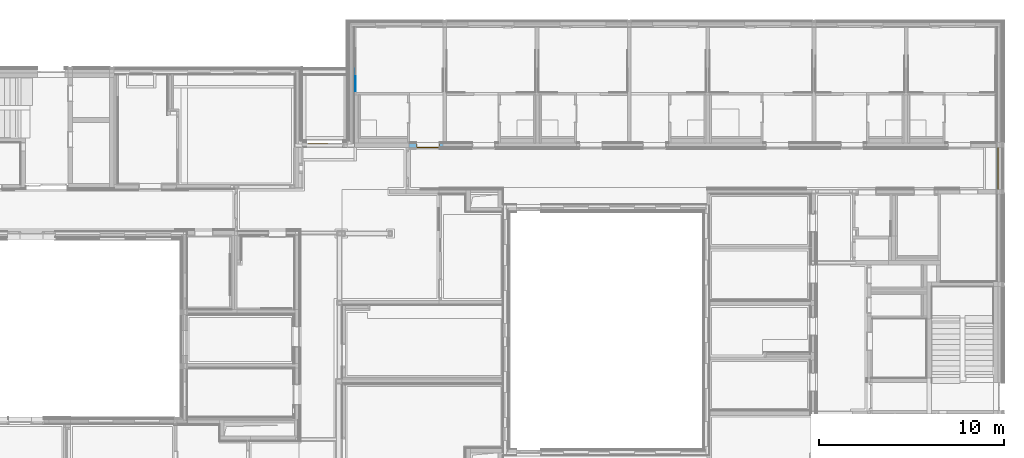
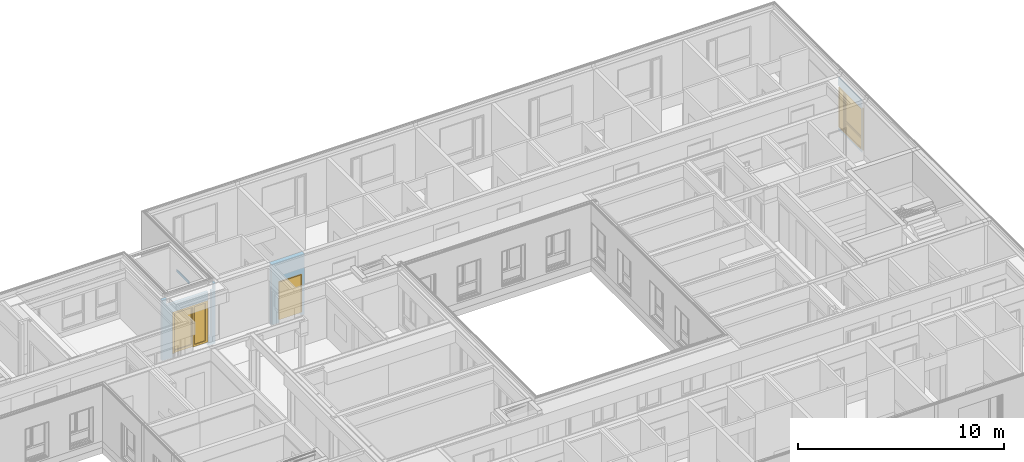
# One storey, part 145 of 207: 2 doors, 1 wall, 1 window, 3 openings, plus 3 elements that do not belong to this part.
"""IFC4 building model written with IfcOpenShell, lengths in metres."""

import ifcopenshell
import ifcopenshell.guid

model = None  # the IFC model being written
_history = None  # IfcOwnerHistory: only IFC2X3 demands one
_inside = {}  # id of a spatial element -> (the spatial element, [elements in it])
_under = {}  # id of a project, library or spatial element -> (it, [spatial elements below it])
_declared = {}  # id of a project -> (the project, [libraries it declares])
_typed = {}  # id of a type object -> (the type object, [elements of that type])
_made_of = {}  # id of a material, layer set ... -> (it, [elements and type objects made of it])


def new_model(schema):
    """Start an empty IFC model of exactly this schema.

    Asked for "IFC4X3", IfcOpenShell would pick the latest addendum, in which some entities
    have other attributes; the version numbers below select the first issue.
    IFC2X3 requires an IfcOwnerHistory on every rooted entity: one is made here for all.
    """
    global model, _history
    if schema == "IFC4X3":
        model = ifcopenshell.file(schema_version=(4, 3, 0, 0))
    else:
        model = ifcopenshell.file(schema=schema)
    _inside.clear()
    _under.clear()
    _declared.clear()
    _typed.clear()
    _made_of.clear()
    _history = None
    if model.schema == "IFC2X3":
        org = make("IfcOrganization", Name="unknown")
        user = make(
            "IfcPersonAndOrganization",
            ThePerson=make("IfcPerson", FamilyName="unknown"),
            TheOrganization=org,
        )
        app = make(
            "IfcApplication",
            ApplicationDeveloper=org,
            Version="unknown",
            ApplicationFullName="unknown",
            ApplicationIdentifier="unknown",
        )
        _history = make(
            "IfcOwnerHistory",
            OwningUser=user,
            OwningApplication=app,
            ChangeAction="ADDED",
            CreationDate=0,
        )
    return model


def make(cls, **values):
    """One entity of the class cls with the attributes given. An attribute that is None is left unset."""
    return model.create_entity(
        cls, **{name: value for name, value in values.items() if value is not None}
    )


def entity(cls, *values):
    """Any entity or typed value of the class cls, its attributes in the order of the schema. None: left unset."""
    e = model.create_entity(cls)
    for i, value in enumerate(values):
        if value is not None:
            e[i] = value
    return e


def rooted(cls, **values):
    """An entity with a GlobalId (a new one), such as an element, a storey or a relation."""
    return make(cls, GlobalId=ifcopenshell.guid.new(), OwnerHistory=_history, **values)


def si_unit(unit_type, name, prefix=None):
    """IfcSIUnit, for example si_unit("LENGTHUNIT", "METRE", prefix="MILLI")."""
    return make("IfcSIUnit", UnitType=unit_type, Prefix=prefix, Name=name)


def converted_unit(unit_type, name, factor, base, dimensions=None, offset=None):
    """IfcConversionBasedUnit, such as the inch: factor (a typed value) times the base unit."""
    return make(
        "IfcConversionBasedUnit"
        if offset is None
        else "IfcConversionBasedUnitWithOffset",
        ConversionOffset=offset,
        Dimensions=None
        if dimensions is None
        else entity("IfcDimensionalExponents", *dimensions),
        UnitType=unit_type,
        Name=name,
        ConversionFactor=make(
            "IfcMeasureWithUnit", ValueComponent=factor, UnitComponent=base
        ),
    )


def derived_unit(unit_type, elements):
    """IfcDerivedUnit: a product of units, each with its exponent."""
    return make(
        "IfcDerivedUnit",
        Elements=[
            make("IfcDerivedUnitElement", Unit=unit, Exponent=power)
            for unit, power in elements
        ],
        UnitType=unit_type,
    )


def assignment(units):
    """IfcUnitAssignment: the units of a project."""
    return None if units is None else make("IfcUnitAssignment", Units=units)


def point(xyz):
    """IfcCartesianPoint."""
    return None if xyz is None else make("IfcCartesianPoint", Coordinates=xyz)


def direction(xyz):
    """IfcDirection."""
    return None if xyz is None else make("IfcDirection", DirectionRatios=xyz)


def frame(location, z_axis=None, x_axis=None):
    """IfcAxis2Placement3D, a coordinate frame: its origin and axes. An axis left out is left unset."""
    return make(
        "IfcAxis2Placement3D",
        Location=point(location),
        Axis=direction(z_axis),
        RefDirection=direction(x_axis),
    )


def frame_2d(location, x_axis=None):
    """IfcAxis2Placement2D, a coordinate frame in the plane: its origin and x axis."""
    return make(
        "IfcAxis2Placement2D", Location=point(location), RefDirection=direction(x_axis)
    )


def origin():
    """The frame at (0, 0, 0) with its axes left unset."""
    return frame((0.0, 0.0, 0.0))


def origin_with_axes():
    """The frame at (0, 0, 0) with the z axis (0, 0, 1) and the x axis (1, 0, 0) written out."""
    return frame((0.0, 0.0, 0.0), z_axis=(0.0, 0.0, 1.0), x_axis=(1.0, 0.0, 0.0))


def place(relative_to, where):
    """IfcLocalPlacement: puts the frame where relative to a parent placement (None: the world)."""
    return make(
        "IfcLocalPlacement", PlacementRelTo=relative_to, RelativePlacement=where
    )


def context(
    kind, dimensions, precision=None, world=None, true_north=None, identifier=None
):
    """IfcGeometricRepresentationContext, for example the 3D "Model" context."""
    return make(
        "IfcGeometricRepresentationContext",
        ContextIdentifier=identifier,
        ContextType=kind,
        CoordinateSpaceDimension=dimensions,
        Precision=precision,
        WorldCoordinateSystem=world,
        TrueNorth=true_north,
    )


def subcontext(parent, identifier, kind, view, scale=None):
    """IfcGeometricRepresentationSubContext, for example "Body" below "Model"."""
    return make(
        "IfcGeometricRepresentationSubContext",
        ContextIdentifier=identifier,
        ContextType=kind,
        ParentContext=parent,
        TargetScale=scale,
        TargetView=view,
    )


def project(units=None, contexts=None):
    """IfcProject with its units and contexts."""
    return rooted(
        "IfcProject",
        Name="project",
        RepresentationContexts=contexts,
        UnitsInContext=assignment(units),
    )


def spatial(cls, under=None, at=None, **own):
    """A site, building, storey or space (cls), placed at a placement, below another one or the project."""
    s = rooted(cls, ObjectPlacement=at, **own)
    if under is not None:
        _under.setdefault(under.id(), (under, []))[1].append(s)
    return s


def polyline(points):
    """IfcPolyline through the points."""
    return make("IfcPolyline", Points=[point(p) for p in points])


def profile(cls, at=None, kind="AREA", **sizes):
    """A parametric profile (cls). Its sizes go by their IFC names, for example OverallWidth=200.0."""
    return make(cls, ProfileType=kind, Position=at, **sizes)


def rectangle(**sizes):
    """IfcRectangleProfileDef."""
    return profile("IfcRectangleProfileDef", **sizes)


def outline(outer, holes=None, kind="AREA"):
    """IfcArbitraryClosedProfileDef: a profile drawn as a closed curve; with holes, ...WithVoids."""
    if holes is None:
        return make("IfcArbitraryClosedProfileDef", ProfileType=kind, OuterCurve=outer)
    return make(
        "IfcArbitraryProfileDefWithVoids",
        ProfileType=kind,
        OuterCurve=outer,
        InnerCurves=holes,
    )


def extrude(swept, where, along, depth):
    """IfcExtrudedAreaSolid: the profile swept, set in the frame where, extruded along a direction by depth."""
    return make(
        "IfcExtrudedAreaSolid",
        SweptArea=swept,
        Position=where,
        ExtrudedDirection=direction(along),
        Depth=depth,
    )


def clip(a, b, op="DIFFERENCE"):
    """IfcBooleanClippingResult: the solid a cut by the half space b."""
    return make(
        "IfcBooleanClippingResult", Operator=op, FirstOperand=a, SecondOperand=b
    )


def bounded_halfspace(plane, agree, where, boundary):
    """IfcPolygonalBoundedHalfSpace: a half space limited to a polygon's prism."""
    return make(
        "IfcPolygonalBoundedHalfSpace",
        BaseSurface=make("IfcPlane", Position=plane),
        AgreementFlag=agree,
        Position=where,
        PolygonalBoundary=boundary,
    )


def faces_of(points, faces, orient=None, outer=None):
    """IfcFace entities. A face is a list of loops; a loop is a list of indices into points, from 0.

    orient and outer hold one flag for each loop. By default every Orientation is true, the
    first loop of a face is its IfcFaceOuterBound and the others are IfcFaceBound.
    """
    made = []
    for i, loops in enumerate(faces):
        bounds = []
        for j, loop in enumerate(loops):
            is_outer = j == 0 if outer is None else outer[i][j]
            bounds.append(
                make(
                    "IfcFaceOuterBound" if is_outer else "IfcFaceBound",
                    Bound=make("IfcPolyLoop", Polygon=[points[k] for k in loop]),
                    Orientation=True if orient is None else orient[i][j],
                )
            )
        made.append(make("IfcFace", Bounds=bounds))
    return made


def closed_shell(faces, orient=None, outer=None):
    """The faces of one IfcClosedShell. faceted_brep and surface_model build it on their shared points."""
    return ("IfcClosedShell", faces, orient, outer)


def open_shell(faces, orient=None, outer=None):
    """The faces of one IfcOpenShell. surface_model builds it on its shared points."""
    return ("IfcOpenShell", faces, orient, outer)


def faceted_brep(points, faces, orient=None, outer=None, voids=None):
    """IfcFacetedBrep: a solid bounded by flat faces; with voids (closed shells), ...WithVoids."""
    shared = [point(p) for p in points]
    hull = make("IfcClosedShell", CfsFaces=faces_of(shared, faces, orient, outer))
    if voids is None:
        return make("IfcFacetedBrep", Outer=hull)
    return make(
        "IfcFacetedBrepWithVoids",
        Outer=hull,
        Voids=[
            make(cls, CfsFaces=faces_of(shared, fs, o, b)) for cls, fs, o, b in voids
        ],
    )


def surface_model(cls, points, shells):
    """IfcFaceBasedSurfaceModel or IfcShellBasedSurfaceModel (cls): surfaces that need not close."""
    shared = [point(p) for p in points]
    made = [make(c, CfsFaces=faces_of(shared, fs, o, b)) for c, fs, o, b in shells]
    if cls == "IfcFaceBasedSurfaceModel":
        return make(cls, FbsmFaces=made)
    return make(cls, SbsmBoundary=made)


def shape(context_of_items, identifier, shape_type, items):
    """IfcShapeRepresentation: the items that make up one representation, for example the "Body"."""
    return make(
        "IfcShapeRepresentation",
        ContextOfItems=context_of_items,
        RepresentationIdentifier=identifier,
        RepresentationType=shape_type,
        Items=items,
    )


def source(mapping_origin, context_of_items, identifier, shape_type, items):
    """IfcRepresentationMap: a shape defined once, which mapped items show again and again."""
    return make(
        "IfcRepresentationMap",
        MappingOrigin=mapping_origin,
        MappedRepresentation=shape(context_of_items, identifier, shape_type, items),
    )


def transform(
    local_origin,
    x_axis=None,
    y_axis=None,
    z_axis=None,
    scale=None,
    scale2=None,
    scale3=None,
    uniform=True,
):
    """IfcCartesianTransformationOperator3D, or its non-uniform kind. x_axis, y_axis, z_axis: its Axis1, 2, 3."""
    if uniform:
        return make(
            "IfcCartesianTransformationOperator3D",
            Axis1=direction(x_axis),
            Axis2=direction(y_axis),
            LocalOrigin=point(local_origin),
            Scale=scale,
            Axis3=direction(z_axis),
        )
    return make(
        "IfcCartesianTransformationOperator3DnonUniform",
        Axis1=direction(x_axis),
        Axis2=direction(y_axis),
        LocalOrigin=point(local_origin),
        Scale=scale,
        Axis3=direction(z_axis),
        Scale2=scale2,
        Scale3=scale3,
    )


def mapped(mapping_source, mapping_target):
    """IfcMappedItem: shows the shape of a source again, moved by a transform."""
    return make(
        "IfcMappedItem", MappingSource=mapping_source, MappingTarget=mapping_target
    )


def material(Name=None, Category=None):
    """IfcMaterial."""
    return make("IfcMaterial", Name=Name, Category=Category)


def made_of(thing, what):
    """Note that an element or type object is made of a material, layer set ...; save() writes the relation."""
    if what is not None:
        _made_of.setdefault(what.id(), (what, []))[1].append(thing)
    return thing


def type_object(cls, material=None, **own):
    """A type object (cls), such as IfcWallType, which elements share."""
    return made_of(rooted(cls, **own), material)


def element(
    cls,
    number,
    at=None,
    inside=None,
    cuts=None,
    type_object=None,
    material=None,
    context=None,
    identifier="Body",
    shape_type=None,
    held_by="IfcProductDefinitionShape",
    body=None,
    shapes=None,
    **own,
):
    """One element of the class cls, such as IfcWall. Its Tag is "e" and its number.

    at: its placement. inside: the storey or other place that contains it. cuts: it is an
    opening in that element (IfcRelVoidsElement). A single representation is given by context,
    identifier, shape_type and body (its items); several are given by shapes. held_by: the class
    of the entity that holds the representations. save() writes the other relations.
    """
    e = rooted(cls, Tag="e%d" % number, ObjectPlacement=at, **own)
    if body is not None:
        shapes = [shape(context, identifier, shape_type, body)]
    if shapes is not None:
        e.Representation = make(held_by, Representations=shapes)
    if inside is not None:
        _inside.setdefault(inside.id(), (inside, []))[1].append(e)
    if cuts is not None:
        rooted(
            "IfcRelVoidsElement", RelatingBuildingElement=cuts, RelatedOpeningElement=e
        )
    if type_object is not None:
        _typed.setdefault(type_object.id(), (type_object, []))[1].append(e)
    return made_of(e, material)


def fill(opening, filler):
    """IfcRelFillsElement: the door or window that sits in an opening."""
    return rooted(
        "IfcRelFillsElement",
        RelatingOpeningElement=opening,
        RelatedBuildingElement=filler,
    )


def aggregate(whole, parts):
    """IfcRelAggregates: a whole, such as a stair, and the parts it consists of."""
    return rooted("IfcRelAggregates", RelatingObject=whole, RelatedObjects=parts)


def save(model, path):
    """Write the relations noted so far, then the file.

    IfcRelAggregates (storeys below a building ...), IfcRelContainedInSpatialStructure (elements
    in a storey), IfcRelDefinesByType, IfcRelAssociatesMaterial and IfcRelDeclares: one each for
    every whole, place, type object, material and project.
    """
    for whole, parts in _under.values():
        aggregate(whole, parts)
    for where, things in _inside.values():
        rooted(
            "IfcRelContainedInSpatialStructure",
            RelatedElements=things,
            RelatingStructure=where,
        )
    for kind, things in _typed.values():
        rooted("IfcRelDefinesByType", RelatedObjects=things, RelatingType=kind)
    for what, things in _made_of.values():
        rooted("IfcRelAssociatesMaterial", RelatedObjects=things, RelatingMaterial=what)
    for by, libraries in _declared.values():
        rooted("IfcRelDeclares", RelatingContext=by, RelatedDefinitions=libraries)
    model.write(path)


model = new_model("IFC4")

# Units and contexts
model_context = context("Model", 3, precision=1e-05, world=origin())
body_context = subcontext(model_context, "Body", "Model", "MODEL_VIEW")
ifc_project = project(units=[si_unit("LENGTHUNIT", "METRE"), si_unit("AREAUNIT", "SQUARE_METRE"), si_unit("VOLUMEUNIT", "CUBIC_METRE"), si_unit("MASSUNIT", "GRAM", prefix="KILO"), converted_unit("PLANEANGLEUNIT", "DEGREE", entity("IfcPlaneAngleMeasure", 0.0174532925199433), si_unit("PLANEANGLEUNIT", "RADIAN"), dimensions=[0, 0, 0, 0, 0, 0, 0]), derived_unit("THERMALTRANSMITTANCEUNIT", [(si_unit("POWERUNIT", "WATT"), 1), (si_unit("THERMODYNAMICTEMPERATUREUNIT", "KELVIN"), -1), (si_unit("LENGTHUNIT", "METRE"), -2)]), derived_unit("VOLUMETRICFLOWRATEUNIT", [(si_unit("LENGTHUNIT", "METRE"), 3), (converted_unit("TIMEUNIT", "hour", entity("IfcTimeMeasure", 3600.0), si_unit("TIMEUNIT", "SECOND"), dimensions=[0, 0, 1, 0, 0, 0, 0]), -1), (si_unit("LENGTHUNIT", "METRE"), -1)])], contexts=[model_context])

# Site, building, storey
site_placement = place(None, origin())
site = spatial("IfcSite", under=ifc_project, at=site_placement, Name="Psychiatrie Neubau Wunstorf", CompositionType="ELEMENT")
building_placement = place(site_placement, origin())
building = spatial("IfcBuilding", under=site, at=building_placement, Name="Neubau H2 Stationsgebäude", CompositionType="ELEMENT")
storey_placement = place(building_placement, frame((0.0, 0.0, -0.2)))
storey = spatial("IfcBuildingStorey", under=building, at=storey_placement, Name="H2 Ebene 0", CompositionType="ELEMENT", Elevation=-0.2)

# Wall, opening, window
ifc_material_1 = material(Name="WA-LB")
wall_1_placement = place(storey_placement, frame((105.889, 25.1175, 0.5), z_axis=(0.0, 0.0, 1.0), x_axis=(0.0, -1.0, 0.0)))
wall_1 = element("IfcWall", 1, at=wall_1_placement, inside=storey, material=ifc_material_1, context=body_context, shape_type="SweptSolid", body=[
    extrude(rectangle(XDim=2.28150000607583, YDim=0.036, at=frame_2d((1.14075000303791, 0.018), x_axis=(1.0, 0.0))), origin_with_axes(), (0.0, 0.0, 1.0), 3.1),
])
opening_1_placement = place(wall_1_placement, frame((0.0, 0.0, 0.1), z_axis=(0.0, 1.0, 0.0), x_axis=(0.0, 0.0, 1.0)))
opening_1 = element("IfcOpeningElement", 2, at=opening_1_placement, cuts=wall_1, Name="Fensteröffnung", ObjectType="Opening", context=body_context, shape_type="SweptSolid", body=[
    extrude(outline(polyline([(2.5, 2.28), (2.5, 0.0), (0.0, 0.0), (0.0, 2.28), (2.5, 2.28)])), origin_with_axes(), (0.0, 0.0, 1.0), 0.036),
])
shared_shape_1 = source(origin_with_axes(), body_context, "Body", "SurfaceModel", [
    surface_model("IfcShellBasedSurfaceModel", [(0.0, 0.0, 2.5), (0.0699999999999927, 0.0, 2.5), (0.0699999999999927, 0.0, 0.0), (0.0, 0.0, 0.0), (0.0, 0.0700000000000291, 0.0), (0.0699999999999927, 0.0700000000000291, 0.0), (0.0699999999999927, 0.0700000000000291, 2.5), (0.0, 0.0700000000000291, 2.5)], [closed_shell([[[0, 1, 2, 3]], [[4, 5, 6, 7]], [[3, 4, 7, 0]], [[2, 5, 4, 3]], [[1, 6, 5, 2]], [[0, 7, 6, 1]]], orient=[[False], [False], [False], [False], [False], [False]])]),
    surface_model("IfcShellBasedSurfaceModel", [(2.20999999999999, 0.0, 2.5), (2.27999999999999, 0.0, 2.5), (2.27999999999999, 0.0, 0.0), (2.20999999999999, 0.0, 0.0), (2.20999999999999, 0.0700000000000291, 0.0), (2.27999999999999, 0.0700000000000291, 0.0), (2.27999999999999, 0.0700000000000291, 2.5), (2.20999999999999, 0.0700000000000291, 2.5)], [closed_shell([[[0, 1, 2, 3]], [[4, 5, 6, 7]], [[3, 4, 7, 0]], [[2, 5, 4, 3]], [[1, 6, 5, 2]], [[0, 7, 6, 1]]], orient=[[False], [False], [False], [False], [False], [False]])]),
    surface_model("IfcShellBasedSurfaceModel", [(0.0699999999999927, 0.0, 0.07), (2.20999999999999, 0.0, 0.07), (2.20999999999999, 0.0, 0.0), (0.0699999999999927, 0.0, 0.0), (0.0699999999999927, 0.0700000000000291, 0.0), (2.20999999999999, 0.0700000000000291, 0.0), (2.20999999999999, 0.0700000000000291, 0.07), (0.0699999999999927, 0.0700000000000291, 0.07)], [closed_shell([[[0, 1, 2, 3]], [[4, 5, 6, 7]], [[3, 4, 7, 0]], [[2, 5, 4, 3]], [[1, 6, 5, 2]], [[0, 7, 6, 1]]], orient=[[False], [False], [False], [False], [False], [False]])]),
    surface_model("IfcShellBasedSurfaceModel", [(0.0699999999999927, 0.0, 2.5), (2.20999999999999, 0.0, 2.5), (2.20999999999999, 0.0, 2.43), (0.0699999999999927, 0.0, 2.43), (0.0699999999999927, 0.0700000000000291, 2.43), (2.20999999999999, 0.0700000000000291, 2.43), (2.20999999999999, 0.0700000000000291, 2.5), (0.0699999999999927, 0.0700000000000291, 2.5)], [closed_shell([[[0, 1, 2, 3]], [[4, 5, 6, 7]], [[3, 4, 7, 0]], [[2, 5, 4, 3]], [[1, 6, 5, 2]], [[0, 7, 6, 1]]], orient=[[False], [False], [False], [False], [False], [False]])]),
    surface_model("IfcShellBasedSurfaceModel", [(1.64429999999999, 0.0, 2.43), (1.71429999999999, 0.0, 2.43), (1.71429999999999, 0.0, 0.07), (1.64429999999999, 0.0, 0.07), (1.64429999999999, 0.0700000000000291, 0.07), (1.71429999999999, 0.0700000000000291, 0.07), (1.71429999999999, 0.0700000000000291, 2.43), (1.64429999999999, 0.0700000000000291, 2.43)], [closed_shell([[[0, 1, 2, 3]], [[4, 5, 6, 7]], [[3, 4, 7, 0]], [[2, 5, 4, 3]], [[1, 6, 5, 2]], [[0, 7, 6, 1]]], orient=[[False], [False], [False], [False], [False], [False]])]),
    surface_model("IfcShellBasedSurfaceModel", [(0.0699999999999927, 0.0, 0.77), (1.64429999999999, 0.0, 0.77), (1.64429999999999, 0.0, 0.67), (0.0699999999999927, 0.0, 0.67), (0.0699999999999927, 0.0700000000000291, 0.67), (1.64429999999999, 0.0700000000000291, 0.67), (1.64429999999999, 0.0700000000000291, 0.77), (0.0699999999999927, 0.0700000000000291, 0.77)], [closed_shell([[[0, 1, 2, 3]], [[4, 5, 6, 7]], [[3, 4, 7, 0]], [[2, 5, 4, 3]], [[1, 6, 5, 2]], [[0, 7, 6, 1]]], orient=[[False], [False], [False], [False], [False], [False]])]),
    surface_model("IfcShellBasedSurfaceModel", [(1.69429999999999, 0.0500000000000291, 2.45), (1.74429999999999, 0.0500000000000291, 2.45), (1.74429999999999, 0.0500000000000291, 0.05), (1.69429999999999, 0.0500000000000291, 0.05), (1.69429999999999, 0.100000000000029, 0.05), (1.74429999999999, 0.100000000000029, 0.05), (1.74429999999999, 0.100000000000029, 2.45), (1.69429999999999, 0.100000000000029, 2.45)], [closed_shell([[[0, 1, 2, 3]], [[4, 5, 6, 7]], [[3, 4, 7, 0]], [[2, 5, 4, 3]], [[1, 6, 5, 2]], [[0, 7, 6, 1]]], orient=[[False], [False], [False], [False], [False], [False]])]),
    surface_model("IfcShellBasedSurfaceModel", [(2.17999999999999, 0.0500000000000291, 2.45), (2.22999999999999, 0.0500000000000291, 2.45), (2.22999999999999, 0.0500000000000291, 0.05), (2.17999999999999, 0.0500000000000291, 0.05), (2.17999999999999, 0.100000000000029, 0.05), (2.22999999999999, 0.100000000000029, 0.05), (2.22999999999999, 0.100000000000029, 2.45), (2.17999999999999, 0.100000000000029, 2.45)], [closed_shell([[[0, 1, 2, 3]], [[4, 5, 6, 7]], [[3, 4, 7, 0]], [[2, 5, 4, 3]], [[1, 6, 5, 2]], [[0, 7, 6, 1]]], orient=[[False], [False], [False], [False], [False], [False]])]),
    surface_model("IfcShellBasedSurfaceModel", [(1.74429999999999, 0.0500000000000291, 0.1), (2.17999999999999, 0.0500000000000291, 0.1), (2.17999999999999, 0.0500000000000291, 0.05), (1.74429999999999, 0.0500000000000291, 0.05), (1.74429999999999, 0.100000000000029, 0.05), (2.17999999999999, 0.100000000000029, 0.05), (2.17999999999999, 0.100000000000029, 0.1), (1.74429999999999, 0.100000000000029, 0.1)], [closed_shell([[[0, 1, 2, 3]], [[4, 5, 6, 7]], [[3, 4, 7, 0]], [[2, 5, 4, 3]], [[1, 6, 5, 2]], [[0, 7, 6, 1]]], orient=[[False], [False], [False], [False], [False], [False]])]),
    surface_model("IfcShellBasedSurfaceModel", [(1.74429999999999, 0.0500000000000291, 2.45), (2.17999999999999, 0.0500000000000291, 2.45), (2.17999999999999, 0.0500000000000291, 2.4), (1.74429999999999, 0.0500000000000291, 2.4), (1.74429999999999, 0.100000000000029, 2.4), (2.17999999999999, 0.100000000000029, 2.4), (2.17999999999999, 0.100000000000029, 2.45), (1.74429999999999, 0.100000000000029, 2.45)], [closed_shell([[[0, 1, 2, 3]], [[4, 5, 6, 7]], [[3, 4, 7, 0]], [[2, 5, 4, 3]], [[1, 6, 5, 2]], [[0, 7, 6, 1]]], orient=[[False], [False], [False], [False], [False], [False]])]),
    surface_model("IfcShellBasedSurfaceModel", [(1.74429999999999, 0.0750000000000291, 0.1), (1.74429999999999, 0.0750000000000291, 2.4), (2.17999999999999, 0.0750000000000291, 2.4), (2.17999999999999, 0.0750000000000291, 0.1)], [open_shell([[[0, 1, 2, 3]]], orient=[[False]])]),
    surface_model("IfcShellBasedSurfaceModel", [(0.0699999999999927, 0.0350000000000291, 0.07), (0.0699999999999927, 0.0350000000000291, 0.67), (1.64429999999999, 0.0350000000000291, 0.67), (1.64429999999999, 0.0350000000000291, 0.07)], [open_shell([[[0, 1, 2, 3]]], orient=[[False]])]),
    surface_model("IfcShellBasedSurfaceModel", [(0.0699999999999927, 0.0350000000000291, 0.77), (0.0699999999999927, 0.0350000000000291, 2.43), (1.64429999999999, 0.0350000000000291, 2.43), (1.64429999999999, 0.0350000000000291, 0.77)], [open_shell([[[0, 1, 2, 3]]], orient=[[False]])]),
])
window_placement = place(opening_1_placement, frame((0.0, 2.28, 0.1), z_axis=(1.0, 0.0, 0.0), x_axis=(0.0, -1.0, 0.0)))
window = element("IfcWindow", 3, at=window_placement, inside=storey, Name="Fenster", OverallHeight=2.5, OverallWidth=2.28, PartitioningType="USERDEFINED", PredefinedType="WINDOW", context=body_context, shape_type="MappedRepresentation", body=[
    mapped(shared_shape_1, transform((0.0, 0.0, 0.0), x_axis=(1.0, 0.0, 0.0), y_axis=(0.0, 1.0, 0.0), z_axis=(0.0, 0.0, 1.0), scale=1.0)),
])
fill(opening_1, window)

# Wall, opening, door
ifc_material_2 = material(Name="WA-HD")
wall_2_placement = place(storey_placement, frame((67.925, 25.1500036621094, 0.0)))
wall_2 = element("IfcWall", 4, at=wall_2_placement, inside=storey, material=ifc_material_2, context=body_context, shape_type="Clipping", body=[
    clip(clip(clip(clip(extrude(rectangle(XDim=2.99, YDim=0.16, at=frame_2d((1.495, 0.08), x_axis=(1.0, 0.0))), origin_with_axes(), (0.0, 0.0, 1.0), 3.6), bounded_halfspace(frame((1.41450000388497, 0.0799990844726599, 3.2), z_axis=(0.0, 0.0, -1.0), x_axis=(-1.0, 0.0, 0.0)), True, origin_with_axes(), polyline([(2.57900000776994, 0.15999816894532), (0.25, 0.15999816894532), (0.25, 0.0), (2.57900000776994, 0.0), (2.57900000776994, 0.15999816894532)]))), bounded_halfspace(frame((2.83750000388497, 0.0799990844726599, 3.2), z_axis=(0.0, 0.0, -1.0), x_axis=(1.0, 0.0, 0.0)), True, origin_with_axes(), polyline([(2.77500000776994, 0.0), (2.9, 0.0), (2.9, 0.15999816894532), (2.77500000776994, 0.15999816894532), (2.77500000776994, 0.0)]))), bounded_halfspace(frame((2.69500000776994, 0.0799990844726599, 0.5), z_axis=(0.0, 0.0, -1.0), x_axis=(0.0, -1.0, 0.0)), True, origin_with_axes(), polyline([(2.61500000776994, 0.15999816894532), (2.61500000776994, 0.0), (2.77500000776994, 0.0), (2.77500000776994, 0.15999816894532), (2.61500000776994, 0.15999816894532)]))), bounded_halfspace(frame((2.59700000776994, 0.0799990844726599, 0.5), z_axis=(0.0, 0.0, -1.0), x_axis=(-1.0, 0.0, 0.0)), True, origin_with_axes(), polyline([(2.61500000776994, 0.15999816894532), (2.57900000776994, 0.15999816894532), (2.57900000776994, 0.0), (2.61500000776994, 0.0), (2.61500000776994, 0.15999816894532)]))),
])
opening_2_placement = place(wall_2_placement, frame((0.566, 0.0, 0.0), z_axis=(0.0, 1.0, 0.0), x_axis=(0.0, 0.0, 1.0)))
opening_2 = element("IfcOpeningElement", 5, at=opening_2_placement, cuts=wall_2, Name="Türöffnung", ObjectType="Opening", context=body_context, shape_type="SweptSolid", body=[
    extrude(outline(polyline([(2.7, 2.01300094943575), (2.7, 0.0), (0.0, 0.0), (0.0, 2.01300094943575), (2.7, 2.01300094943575)])), origin_with_axes(), (0.0, 0.0, 1.0), 0.16),
])
ifc_material_3 = material(Name="TA-1F-AG-D-2S-O")
shared_shape_2 = source(origin_with_axes(), body_context, "Body", "SurfaceModel", [
    surface_model("IfcShellBasedSurfaceModel", [(0.0, 0.0795, 2.7), (0.0, 0.0795, 0.2), (0.05, 0.0795, 0.2), (0.05, 0.0795, 2.7), (0.0, 0.0005, 0.2), (0.0, 0.0005, 2.7), (0.05, 0.0005, 2.7), (0.05, 0.0005, 0.2)], [closed_shell([[[0, 1, 2, 3]], [[4, 5, 6, 7]], [[1, 0, 5, 4]], [[2, 1, 4, 7]], [[3, 2, 7, 6]], [[0, 3, 6, 5]]], orient=[[False], [False], [False], [False], [False], [False]])]),
    surface_model("IfcShellBasedSurfaceModel", [(1.96300094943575, 0.0795, 2.7), (1.96300094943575, 0.0795, 0.2), (2.01300094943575, 0.0795, 0.2), (2.01300094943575, 0.0795, 2.7), (1.96300094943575, 0.0005, 0.2), (1.96300094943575, 0.0005, 2.7), (2.01300094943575, 0.0005, 2.7), (2.01300094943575, 0.0005, 0.2)], [closed_shell([[[0, 1, 2, 3]], [[4, 5, 6, 7]], [[1, 0, 5, 4]], [[2, 1, 4, 7]], [[3, 2, 7, 6]], [[0, 3, 6, 5]]], orient=[[False], [False], [False], [False], [False], [False]])]),
    surface_model("IfcShellBasedSurfaceModel", [(0.05, 0.0795, 2.7), (0.05, 0.0795, 2.65), (1.96300094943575, 0.0795, 2.65), (1.96300094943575, 0.0795, 2.7), (0.05, 0.0005, 2.65), (0.05, 0.0005, 2.7), (1.96300094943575, 0.0005, 2.7), (1.96300094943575, 0.0005, 2.65)], [closed_shell([[[0, 1, 2, 3]], [[4, 5, 6, 7]], [[1, 0, 5, 4]], [[2, 1, 4, 7]], [[3, 2, 7, 6]], [[0, 3, 6, 5]]], orient=[[False], [False], [False], [False], [False], [False]])]),
    surface_model("IfcShellBasedSurfaceModel", [(0.05, 0.08, 2.65), (0.05, 0.08, 0.2), (0.129999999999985, 0.08, 0.2), (0.129999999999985, 0.08, 2.65), (0.05, 0.0, 0.2), (0.05, 0.0, 2.65), (0.129999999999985, 0.0, 2.65), (0.129999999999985, 0.0, 0.2)], [closed_shell([[[0, 1, 2, 3]], [[4, 5, 6, 7]], [[1, 0, 5, 4]], [[2, 1, 4, 7]], [[3, 2, 7, 6]], [[0, 3, 6, 5]]], orient=[[False], [False], [False], [False], [False], [False]])]),
    surface_model("IfcShellBasedSurfaceModel", [(1.88300094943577, 0.08, 2.65), (1.88300094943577, 0.08, 0.2), (1.96300094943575, 0.08, 0.2), (1.96300094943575, 0.08, 2.65), (1.88300094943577, 0.0, 0.2), (1.88300094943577, 0.0, 2.65), (1.96300094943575, 0.0, 2.65), (1.96300094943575, 0.0, 0.2)], [closed_shell([[[0, 1, 2, 3]], [[4, 5, 6, 7]], [[1, 0, 5, 4]], [[2, 1, 4, 7]], [[3, 2, 7, 6]], [[0, 3, 6, 5]]], orient=[[False], [False], [False], [False], [False], [False]])]),
    surface_model("IfcShellBasedSurfaceModel", [(0.129999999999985, 0.08, 2.65), (0.129999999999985, 0.08, 2.57), (1.88300094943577, 0.08, 2.57), (1.88300094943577, 0.08, 2.65), (0.129999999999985, 0.0, 2.57), (0.129999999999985, 0.0, 2.65), (1.88300094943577, 0.0, 2.65), (1.88300094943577, 0.0, 2.57)], [closed_shell([[[0, 1, 2, 3]], [[4, 5, 6, 7]], [[1, 0, 5, 4]], [[2, 1, 4, 7]], [[3, 2, 7, 6]], [[0, 3, 6, 5]]], orient=[[False], [False], [False], [False], [False], [False]])]),
    surface_model("IfcShellBasedSurfaceModel", [(0.110999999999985, 0.14, 2.59), (0.110999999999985, 0.14, 0.18), (0.180999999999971, 0.14, 0.18), (0.180999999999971, 0.14, 2.59), (0.110999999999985, 0.06, 0.18), (0.110999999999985, 0.06, 2.59), (0.180999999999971, 0.06, 2.59), (0.180999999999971, 0.06, 0.18)], [closed_shell([[[0, 1, 2, 3]], [[4, 5, 6, 7]], [[1, 0, 5, 4]], [[2, 1, 4, 7]], [[3, 2, 7, 6]], [[0, 3, 6, 5]]], orient=[[False], [False], [False], [False], [False], [False]])]),
    surface_model("IfcShellBasedSurfaceModel", [(1.13099999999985, 0.14, 2.59), (1.13099999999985, 0.14, 0.18), (1.20099999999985, 0.14, 0.18), (1.20099999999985, 0.14, 2.59), (1.13099999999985, 0.06, 0.18), (1.13099999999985, 0.06, 2.59), (1.20099999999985, 0.06, 2.59), (1.20099999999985, 0.06, 0.18)], [closed_shell([[[0, 1, 2, 3]], [[4, 5, 6, 7]], [[1, 0, 5, 4]], [[2, 1, 4, 7]], [[3, 2, 7, 6]], [[0, 3, 6, 5]]], orient=[[False], [False], [False], [False], [False], [False]])]),
    surface_model("IfcShellBasedSurfaceModel", [(0.180999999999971, 0.14, 0.33), (0.180999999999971, 0.14, 0.18), (1.13099999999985, 0.14, 0.18), (1.13099999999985, 0.14, 0.33), (0.180999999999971, 0.06, 0.18), (0.180999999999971, 0.06, 0.33), (1.13099999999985, 0.06, 0.33), (1.13099999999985, 0.06, 0.18)], [closed_shell([[[0, 1, 2, 3]], [[4, 5, 6, 7]], [[1, 0, 5, 4]], [[2, 1, 4, 7]], [[3, 2, 7, 6]], [[0, 3, 6, 5]]], orient=[[False], [False], [False], [False], [False], [False]])]),
    surface_model("IfcShellBasedSurfaceModel", [(0.180999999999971, 0.14, 2.59), (0.180999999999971, 0.14, 2.52), (1.13099999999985, 0.14, 2.52), (1.13099999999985, 0.14, 2.59), (0.180999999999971, 0.06, 2.52), (0.180999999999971, 0.06, 2.59), (1.13099999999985, 0.06, 2.59), (1.13099999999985, 0.06, 2.52)], [closed_shell([[[0, 1, 2, 3]], [[4, 5, 6, 7]], [[1, 0, 5, 4]], [[2, 1, 4, 7]], [[3, 2, 7, 6]], [[0, 3, 6, 5]]], orient=[[False], [False], [False], [False], [False], [False]])]),
    surface_model("IfcShellBasedSurfaceModel", [(1.18199999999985, 0.08, 2.57), (1.18199999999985, 0.08, 0.2), (1.26199999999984, 0.08, 0.2), (1.26199999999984, 0.08, 2.57), (1.18199999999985, 0.0, 0.2), (1.18199999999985, 0.0, 2.57), (1.26199999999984, 0.0, 2.57), (1.26199999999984, 0.0, 0.2)], [closed_shell([[[0, 1, 2, 3]], [[4, 5, 6, 7]], [[1, 0, 5, 4]], [[2, 1, 4, 7]], [[3, 2, 7, 6]], [[0, 3, 6, 5]]], orient=[[False], [False], [False], [False], [False], [False]])]),
    surface_model("IfcShellBasedSurfaceModel", [(1.26199999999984, 0.08, 0.32), (1.26199999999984, 0.08, 0.2), (1.88300094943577, 0.08, 0.2), (1.88300094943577, 0.08, 0.32), (1.26199999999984, 0.0, 0.2), (1.26199999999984, 0.0, 0.32), (1.88300094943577, 0.0, 0.32), (1.88300094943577, 0.0, 0.2)], [closed_shell([[[0, 1, 2, 3]], [[4, 5, 6, 7]], [[1, 0, 5, 4]], [[2, 1, 4, 7]], [[3, 2, 7, 6]], [[0, 3, 6, 5]]], orient=[[False], [False], [False], [False], [False], [False]])]),
    surface_model("IfcShellBasedSurfaceModel", [(1.26199999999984, 0.04, 0.32), (1.88300094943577, 0.04, 0.32), (1.88300094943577, 0.04, 2.57), (1.26199999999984, 0.04, 2.57)], [open_shell([[[0, 1, 2, 3]]], orient=[[False]])]),
    surface_model("IfcShellBasedSurfaceModel", [(0.180999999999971, 0.1, 0.33), (1.13099999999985, 0.1, 0.33), (1.13099999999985, 0.1, 2.52), (0.180999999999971, 0.1, 2.52)], [open_shell([[[0, 1, 2, 3]]], orient=[[False]])]),
])
door_1_placement = place(opening_2_placement, frame((0.0, 0.0, 0.029), z_axis=(1.0, 0.0, 0.0), x_axis=(0.0, 1.0, 0.0)))
door_1 = element("IfcDoor", 6, at=door_1_placement, inside=storey, material=ifc_material_3, Name="SMT", OperationType="USERDEFINED", OverallHeight=2.7, OverallWidth=2.013, PredefinedType="DOOR", context=body_context, shape_type="MappedRepresentation", body=[
    mapped(shared_shape_2, transform((0.0, 0.0, 0.0), x_axis=(1.0, 0.0, 0.0), y_axis=(0.0, 1.0, 0.0), z_axis=(0.0, 0.0, 1.0), scale=1.0)),
])
fill(opening_2, door_1)

# Wall
wall_3_placement = place(storey_placement, frame((71.161, 28.1628, 1.625)))
element("IfcWall", 7, at=wall_3_placement, inside=storey, Name="WV 1.1", context=body_context, shape_type="Brep", body=[
    faceted_brep([(0.025, 1.2, 0.0), (0.0, 1.2, 0.0), (0.0, 0.0, 0.0), (0.025, 0.0, 0.0), (0.0, 1.2, 0.15), (0.025, 1.2, 0.15), (0.025, 0.0, 0.15), (0.0, 0.0, 0.15)], [[[0, 1, 2, 3]], [[4, 5, 6, 7]], [[1, 0, 5, 4]], [[2, 1, 4, 7]], [[3, 2, 7, 6]], [[0, 3, 6, 5]]], orient=[[False], [False], [False], [False], [False], [False]]),
])

# Wall, opening, door
ifc_material_4 = material(Name="WI-HW 60")
wall_4_placement = place(storey_placement, frame((74.055, 25.1175, 0.0)))
wall_4 = element("IfcWall", 8, at=wall_4_placement, inside=storey, material=ifc_material_4, context=body_context, shape_type="SweptSolid", body=[
    extrude(outline(polyline([(0.0, 0.0), (1.845, 0.0), (1.845, 0.232), (0.045, 0.232000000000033), (0.0, 0.232000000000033), (0.0, 0.0)])), origin_with_axes(), (0.0, 0.0, 1.0), 3.6),
])
opening_3_placement = place(wall_4_placement, frame((0.41, 0.0, 0.0), z_axis=(0.0, 1.0, 0.0), x_axis=(0.0, 0.0, 1.0)))
opening_3 = element("IfcOpeningElement", 9, at=opening_3_placement, cuts=wall_4, Name="Türöffnung", ObjectType="Opening", context=body_context, shape_type="SweptSolid", body=[
    extrude(outline(polyline([(2.46, 1.26), (2.46, 0.0), (0.0, 0.0), (0.0, 1.26), (2.46, 1.26)])), origin_with_axes(), (0.0, 0.0, 1.0), 0.232),
])
ifc_material_5 = material(Name="TI-2F-UZ-D")
door_type = type_object("IfcDoorType", Name="SMT", OperationType="DOUBLE_DOOR_SINGLE_SWING", ParameterTakesPrecedence=False, PredefinedType="DOOR")
shared_shape_3 = source(origin_with_axes(), body_context, "Body", "Brep", [
    faceted_brep([(0.0, -0.015, 2.46), (0.04, -0.015, 2.46), (0.04, -0.015, 0.2), (0.0, -0.015, 0.2), (0.0, 0.287, 0.2), (0.04, 0.287, 0.2), (0.04, 0.287, 2.46), (0.0, 0.287, 2.46)], [[[0, 1, 2, 3]], [[4, 5, 6, 7]], [[3, 4, 7, 0]], [[2, 5, 4, 3]], [[1, 6, 5, 2]], [[0, 7, 6, 1]]], orient=[[False], [False], [False], [False], [False], [False]]),
    faceted_brep([(0.0, -0.015, 2.475), (0.0, -0.015, 0.2), (-0.015, -0.015, 0.2), (-0.015, -0.015, 2.475), (0.0, 0.0, 0.2), (0.0, 0.0, 2.475), (-0.015, 0.0, 2.475), (-0.015, 0.0, 0.2)], [[[0, 1, 2, 3]], [[4, 5, 6, 7]], [[1, 0, 5, 4]], [[2, 1, 4, 7]], [[3, 2, 7, 6]], [[0, 3, 6, 5]]], orient=[[False], [False], [False], [False], [False], [False]]),
    faceted_brep([(0.0, 0.272, 2.475), (0.0, 0.272, 0.2), (-0.015, 0.272, 0.2), (-0.015, 0.272, 2.475), (0.0, 0.287, 0.2), (0.0, 0.287, 2.475), (-0.015, 0.287, 2.475), (-0.015, 0.287, 0.2)], [[[0, 1, 2, 3]], [[4, 5, 6, 7]], [[1, 0, 5, 4]], [[2, 1, 4, 7]], [[3, 2, 7, 6]], [[0, 3, 6, 5]]], orient=[[False], [False], [False], [False], [False], [False]]),
    faceted_brep([(1.22, -0.015, 2.46), (1.26, -0.015, 2.46), (1.26, -0.015, 0.2), (1.22, -0.015, 0.2), (1.22, 0.287, 0.2), (1.26, 0.287, 0.2), (1.26, 0.287, 2.46), (1.22, 0.287, 2.46)], [[[0, 1, 2, 3]], [[4, 5, 6, 7]], [[3, 4, 7, 0]], [[2, 5, 4, 3]], [[1, 6, 5, 2]], [[0, 7, 6, 1]]], orient=[[False], [False], [False], [False], [False], [False]]),
    faceted_brep([(1.26, -0.015, 2.475), (1.275, -0.015, 2.475), (1.275, -0.015, 0.2), (1.26, -0.015, 0.2), (1.26, 0.0, 0.2), (1.275, 0.0, 0.2), (1.275, 0.0, 2.475), (1.26, 0.0, 2.475)], [[[0, 1, 2, 3]], [[4, 5, 6, 7]], [[3, 4, 7, 0]], [[2, 5, 4, 3]], [[1, 6, 5, 2]], [[0, 7, 6, 1]]], orient=[[False], [False], [False], [False], [False], [False]]),
    faceted_brep([(1.26, 0.272, 2.475), (1.275, 0.272, 2.475), (1.275, 0.272, 0.2), (1.26, 0.272, 0.2), (1.26, 0.287, 0.2), (1.275, 0.287, 0.2), (1.275, 0.287, 2.475), (1.26, 0.287, 2.475)], [[[0, 1, 2, 3]], [[4, 5, 6, 7]], [[3, 4, 7, 0]], [[2, 5, 4, 3]], [[1, 6, 5, 2]], [[0, 7, 6, 1]]], orient=[[False], [False], [False], [False], [False], [False]]),
    faceted_brep([(0.04, -0.015, 2.46), (1.22, -0.015, 2.46), (1.22, -0.015, 2.42), (0.04, -0.015, 2.42), (0.04, 0.287, 2.42), (1.22, 0.287, 2.42), (1.22, 0.287, 2.46), (0.04, 0.287, 2.46)], [[[0, 1, 2, 3]], [[4, 5, 6, 7]], [[3, 4, 7, 0]], [[2, 5, 4, 3]], [[1, 6, 5, 2]], [[0, 7, 6, 1]]], orient=[[False], [False], [False], [False], [False], [False]]),
    faceted_brep([(0.0, -0.015, 2.475), (1.26, -0.015, 2.475), (1.26, -0.015, 2.46), (0.0, -0.015, 2.46), (0.0, 0.0, 2.46), (1.26, 0.0, 2.46), (1.26, 0.0, 2.475), (0.0, 0.0, 2.475)], [[[0, 1, 2, 3]], [[4, 5, 6, 7]], [[3, 4, 7, 0]], [[2, 5, 4, 3]], [[1, 6, 5, 2]], [[0, 7, 6, 1]]], orient=[[False], [False], [False], [False], [False], [False]]),
    faceted_brep([(0.0, 0.272, 2.475), (1.26, 0.272, 2.475), (1.26, 0.272, 2.46), (0.0, 0.272, 2.46), (0.0, 0.287, 2.46), (1.26, 0.287, 2.46), (1.26, 0.287, 2.475), (0.0, 0.287, 2.475)], [[[0, 1, 2, 3]], [[4, 5, 6, 7]], [[3, 4, 7, 0]], [[2, 5, 4, 3]], [[1, 6, 5, 2]], [[0, 7, 6, 1]]], orient=[[False], [False], [False], [False], [False], [False]]),
    faceted_brep([(0.025, 0.252, 2.435), (0.925, 0.252, 2.435), (0.925, 0.252, 0.2), (0.025, 0.252, 0.2), (0.025, 0.302, 0.2), (0.925, 0.302, 0.2), (0.925, 0.302, 2.435), (0.025, 0.302, 2.435)], [[[0, 1, 2, 3]], [[4, 5, 6, 7]], [[3, 4, 7, 0]], [[2, 5, 4, 3]], [[1, 6, 5, 2]], [[0, 7, 6, 1]]], orient=[[False], [False], [False], [False], [False], [False]]),
    faceted_brep([(0.926, 0.252, 2.435), (1.235, 0.252, 2.435), (1.235, 0.252, 0.2), (0.926, 0.252, 0.2), (0.926, 0.302, 0.2), (1.235, 0.302, 0.2), (1.235, 0.302, 2.435), (0.926, 0.302, 2.435)], [[[0, 1, 2, 3]], [[4, 5, 6, 7]], [[3, 4, 7, 0]], [[2, 5, 4, 3]], [[1, 6, 5, 2]], [[0, 7, 6, 1]]], orient=[[False], [False], [False], [False], [False], [False]]),
])
door_2_placement = place(opening_3_placement, frame((0.0, 1.26, 0.272), z_axis=(1.0, 0.0, 0.0), x_axis=(0.0, -1.0, 0.0)))
door_2 = element("IfcDoor", 10, at=door_2_placement, inside=storey, type_object=door_type, material=ifc_material_5, Name="SMT", OverallHeight=2.46, OverallWidth=1.26, context=body_context, shape_type="MappedRepresentation", body=[
    mapped(shared_shape_3, transform((0.0, 0.0, 0.0), x_axis=(1.0, 0.0, 0.0), y_axis=(0.0, 1.0, 0.0), z_axis=(0.0, 0.0, 1.0), scale=1.0)),
])
fill(opening_3, door_2)

save(model, "model.ifc")
